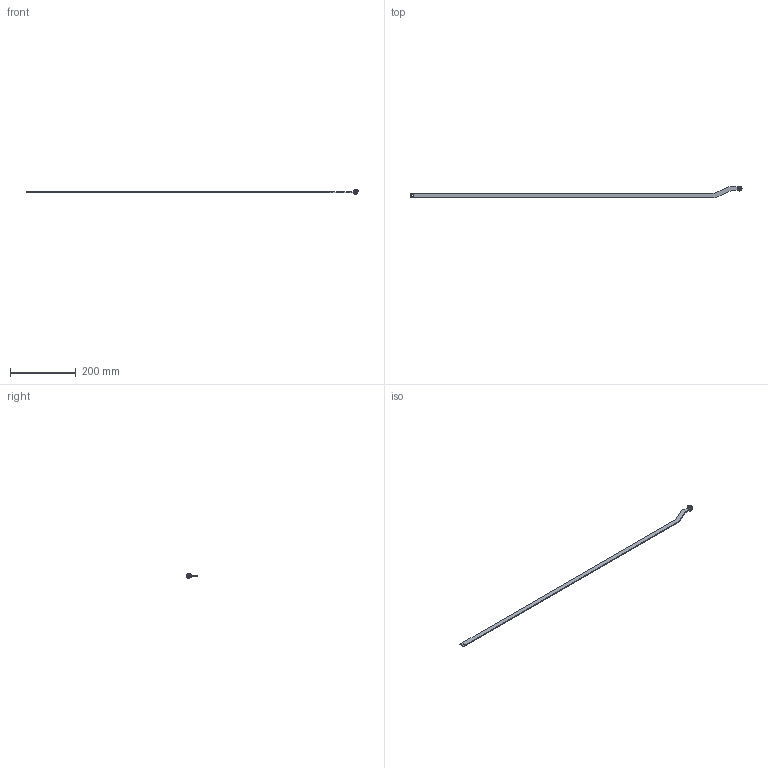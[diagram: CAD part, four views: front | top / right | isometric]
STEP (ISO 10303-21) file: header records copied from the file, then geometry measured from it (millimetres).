
FILE_DESCRIPTION (( 'STEP AP214' ), '1' );
FILE_NAME ('A25K-L.STEP', '2016-08-18T08:33:03', ( 'RST-Dolba' ), ( '' ), 'SwSTEP 2.0', 'SolidWorks 2015', '' );
FILE_SCHEMA (( 'AUTOMOTIVE_DESIGN' ));
Length unit declared in the file: millimetre
Products named in the file (5): A25K-L; DIN 125_M4; 1C.ROLKA.02.04.00_A-zak; 1C.905.001_A; 1C.A.X.Y.L.01_25K
Assembly tree (5 placements, depth 2):
  A25K-L
    1C.A.X.Y.L.01_25K
    1C.905.001_A  x2
    1C.ROLKA.02.04.00_A-zak
    DIN 125_M4
Bounding box: 1007.5 x 36 x 14 mm (x, y, z)
Volume: 43610 mm3; surface area: 35835.3 mm2
Topology: 5 solids, 5 shells, 58 faces, 135 edges, 87 vertices
Faces by surface type: cylinder 26, plane 26, torus 4, cone 2
Entity records: 1667 total; most frequent: DIRECTION 281, CARTESIAN_POINT 252, ORIENTED_EDGE 234, EDGE_CURVE 117, AXIS2_PLACEMENT_3D 106, VERTEX_POINT 77, LINE 69, VECTOR 69
